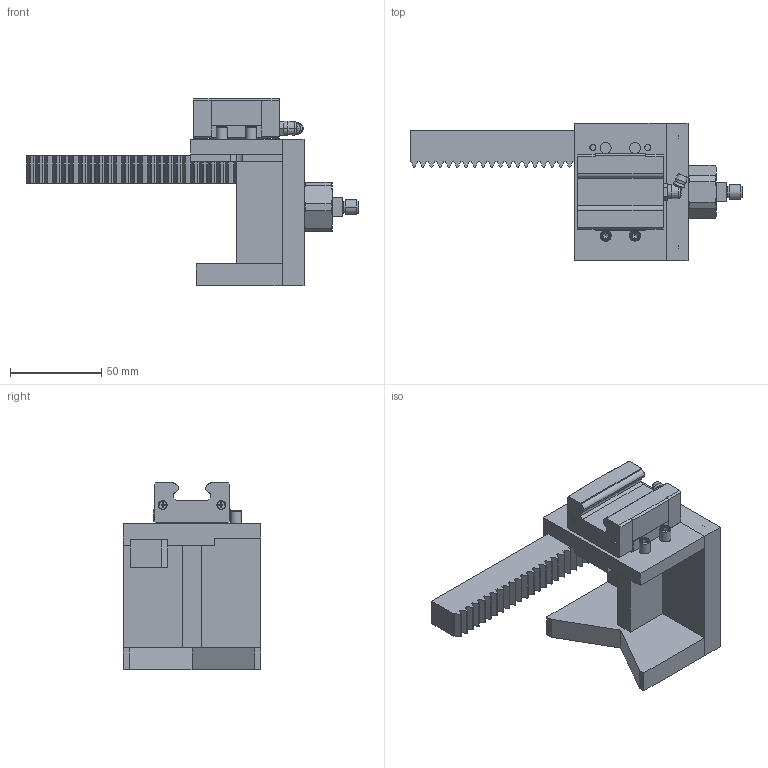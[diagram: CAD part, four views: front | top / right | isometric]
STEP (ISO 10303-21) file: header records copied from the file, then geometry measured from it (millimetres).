
FILE_DESCRIPTION (( 'STEP AP214' ), '1' );
FILE_NAME ('24_Gripper_double_solenoid_mechanism_Finger2.STEP', '2021-02-09T07:44:55', ( '' ), ( '' ), 'SwSTEP 2.0', 'SolidWorks 2017', '' );
FILE_SCHEMA (( 'AUTOMOTIVE_DESIGN' ));
Length unit declared in the file: millimetre
Products named in the file (14): 0578_203_Chuck; 0578_210_Plate; 0578_Z_SVR28-160-LLC-RLC_2; 24_Gripper_double_solenoid_mechanism_Finger2; 0578_004_FJCMX8-1.25; 0578_303_CB4-16; 0578_204_Plate; 0578_001_SVR28-160-LLC-RLC; 0578_005_MSTP6-15; 0578_002_RGEAL1.5Z-140-A100-B30; 0578_305_CB5-12; 0578_304_CB5-10; _0578_SA01; 0578_202_Plate
Assembly tree (18 placements, depth 4):
  24_Gripper_double_solenoid_mechanism_Finger2
    _0578_SA01
      0578_001_SVR28-160-LLC-RLC
        0578_Z_SVR28-160-LLC-RLC_2
      0578_002_RGEAL1.5Z-140-A100-B30
      0578_004_FJCMX8-1.25
      0578_005_MSTP6-15  x2
      0578_202_Plate
      0578_203_Chuck
      0578_204_Plate
      0578_210_Plate
      0578_303_CB4-16
      0578_304_CB5-10
      0578_305_CB5-12  x5
Bounding box: 181.5 x 75 x 102.5 mm (x, y, z)
Volume: 236115.5 mm3; surface area: 72405.9 mm2
Topology: 16 solids, 16 shells, 683 faces, 1730 edges, 1101 vertices
Faces by surface type: plane 379, cylinder 167, cone 109, bspline 28
Entity records: 25663 total; most frequent: CARTESIAN_POINT 4209, ORIENTED_EDGE 2990, DIRECTION 2981, EDGE_CURVE 1495, AXIS2_PLACEMENT_3D 994, VECTOR 993, LINE 993, VERTEX_POINT 973
